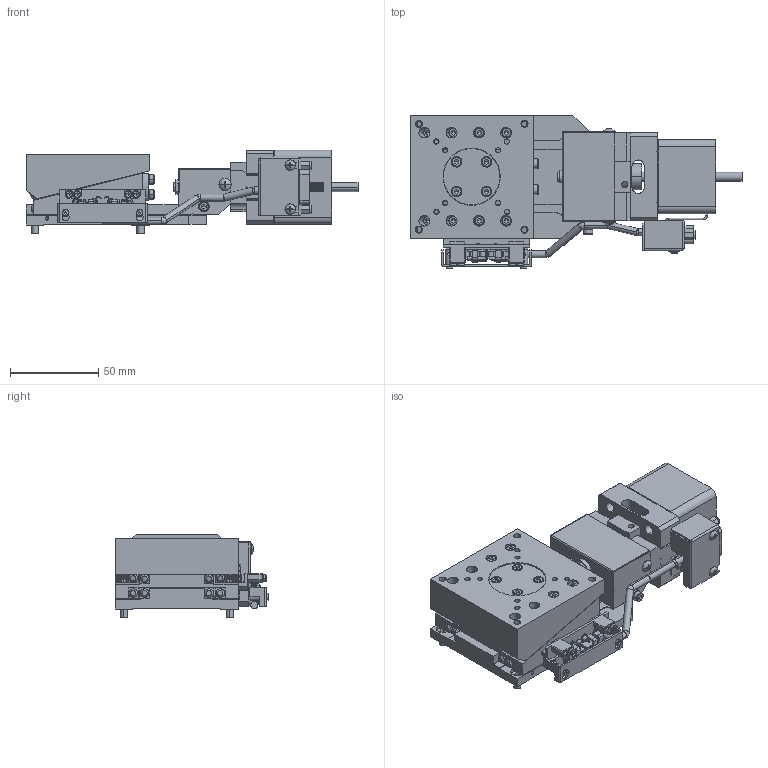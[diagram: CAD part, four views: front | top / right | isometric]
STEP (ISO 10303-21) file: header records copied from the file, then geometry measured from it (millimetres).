
FILE_DESCRIPTION( (''), '2;1');
FILE_NAME ('MVZA07A-W2C02-R.stp','2021-03-16T10:54:49',(''),(''),'spGate 15.6.6','','');
FILE_SCHEMA (('AUTOMOTIVE_DESIGN'));
Length unit declared in the file: millimetre
Products named in the file (8): Assembly; MVZA07A-W2C02-R-prt0; MVZA07A-W2C02-R-prt1; MVZA07A-W2C02-R-prt2; MVZA07A-W2C02-R-prt3; MVZA07A-W2C02-R-prt4; MVZA07A-W2C02-R-prt5; MVZA07A-W2C02-R-prt6
Assembly tree (7 placements, depth 2):
  Assembly
    MVZA07A-W2C02-R-prt0
    MVZA07A-W2C02-R-prt1
    MVZA07A-W2C02-R-prt2
    MVZA07A-W2C02-R-prt3
    MVZA07A-W2C02-R-prt4
    MVZA07A-W2C02-R-prt5
    MVZA07A-W2C02-R-prt6
Bounding box: 188.5 x 87.3 x 47.5 mm (x, y, z)
Volume: 320852.7 mm3; surface area: 107298.2 mm2
Topology: 7 solids, 7 shells, 3270 faces, 7965 edges, 4827 vertices
Faces by surface type: plane 1816, cylinder 923, bspline 500, sphere 31
Entity records: 162401 total; most frequent: CARTESIAN_POINT 25324, ORIENTED_EDGE 15666, DIRECTION 14480, COLOUR_RGB 11110, PRESENTATION_STYLE_ASSIGNMENT 11110, STYLED_ITEM 11110, EDGE_CURVE 7833, DRAUGHTING_PRE_DEFINED_CURVE_FONT 7833
